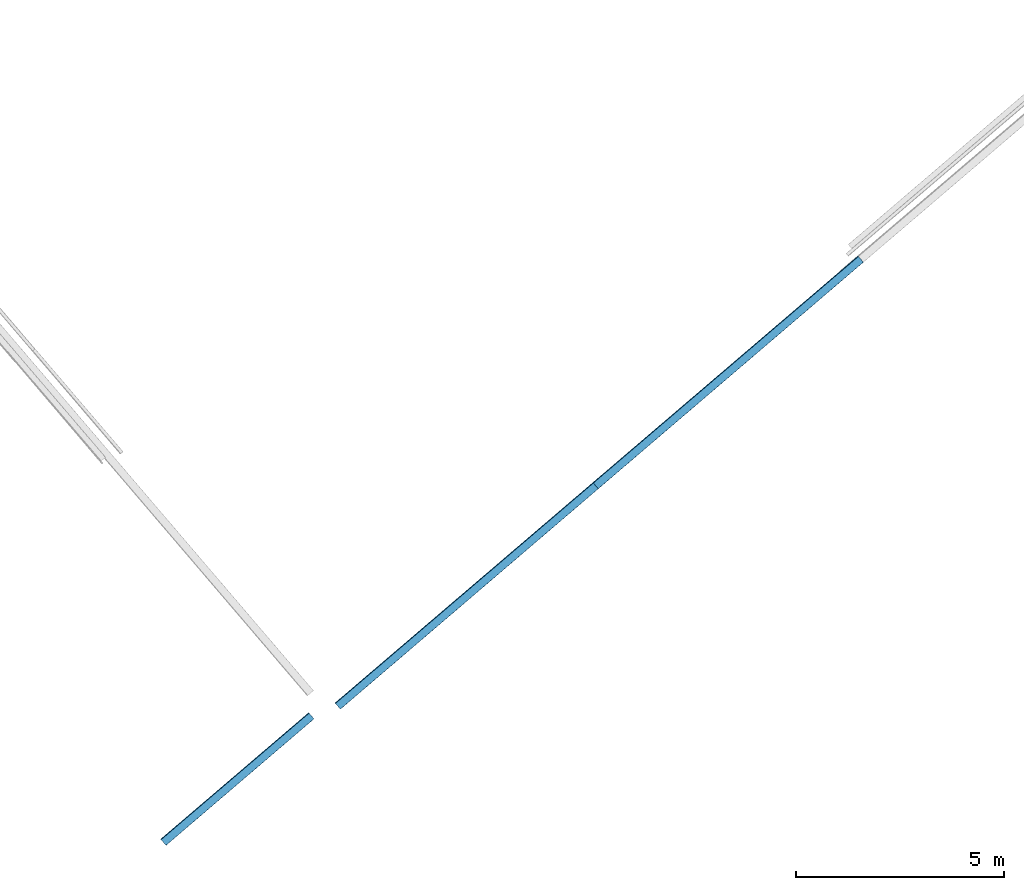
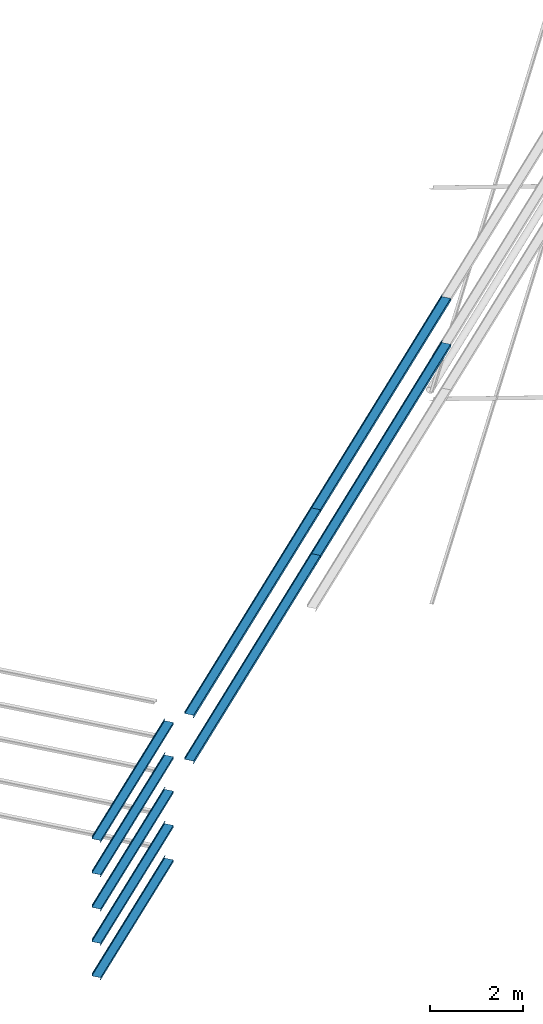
# One storey, part 2 of 6: 5 beams, 4 members.
"""IFC2X3 building model written with IfcOpenShell, lengths in millimetres."""

from ifc_helpers import new_model, entity, si_unit, converted_unit, derived_unit, direction, frame, frame_2d, origin, place, context, subcontext, project, spatial, polyline, circle_curve, parameter, trimmed, segment, composite_curve, outline, extrude, source, transform, mapped, material, type_object, type_shapes, element, save


model = new_model("IFC2X3")

# Units and contexts
model_context = context("Model", 3, precision=0.01, world=origin(), true_north=direction((6.123031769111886e-17, 1.0)))
body_context = subcontext(model_context, "Body", "Model", "MODEL_VIEW")
ifc_project = project(units=[si_unit("LENGTHUNIT", "METRE", prefix="MILLI"), si_unit("AREAUNIT", "SQUARE_METRE"), si_unit("VOLUMEUNIT", "CUBIC_METRE"), converted_unit("PLANEANGLEUNIT", "DEGREE", entity("IfcRatioMeasure", 0.017453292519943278), si_unit("PLANEANGLEUNIT", "RADIAN"), dimensions=[0, 0, 0, 0, 0, 0, 0]), si_unit("MASSUNIT", "GRAM", prefix="KILO"), derived_unit("MASSDENSITYUNIT", [(si_unit("MASSUNIT", "GRAM", prefix="KILO"), 1), (si_unit("LENGTHUNIT", "METRE"), -3)]), derived_unit("MOMENTOFINERTIAUNIT", [(si_unit("LENGTHUNIT", "METRE"), 4)]), si_unit("TIMEUNIT", "SECOND"), si_unit("FREQUENCYUNIT", "HERTZ"), si_unit("THERMODYNAMICTEMPERATUREUNIT", "DEGREE_CELSIUS"), derived_unit("THERMALTRANSMITTANCEUNIT", [(si_unit("MASSUNIT", "GRAM", prefix="KILO"), 1), (si_unit("THERMODYNAMICTEMPERATUREUNIT", "KELVIN"), -1), (si_unit("TIMEUNIT", "SECOND"), -3)]), derived_unit("VOLUMETRICFLOWRATEUNIT", [(si_unit("LENGTHUNIT", "METRE"), 3), (si_unit("TIMEUNIT", "SECOND"), -1)]), derived_unit("MASSFLOWRATEUNIT", [(si_unit("MASSUNIT", "GRAM", prefix="KILO"), 1), (si_unit("TIMEUNIT", "SECOND"), -1)]), derived_unit("ROTATIONALFREQUENCYUNIT", [(si_unit("TIMEUNIT", "SECOND"), -1)]), si_unit("ELECTRICCURRENTUNIT", "AMPERE"), si_unit("ELECTRICVOLTAGEUNIT", "VOLT"), si_unit("POWERUNIT", "WATT"), si_unit("FORCEUNIT", "NEWTON", prefix="KILO"), si_unit("ILLUMINANCEUNIT", "LUX"), si_unit("LUMINOUSFLUXUNIT", "LUMEN"), si_unit("LUMINOUSINTENSITYUNIT", "CANDELA"), derived_unit("USERDEFINED", [(si_unit("MASSUNIT", "GRAM", prefix="KILO"), -1), (si_unit("LENGTHUNIT", "METRE"), -2), (si_unit("TIMEUNIT", "SECOND"), 3), (si_unit("LUMINOUSFLUXUNIT", "LUMEN"), 1)]), derived_unit("SOUNDPOWERUNIT", [(si_unit("MASSUNIT", "GRAM", prefix="KILO"), 1), (si_unit("LENGTHUNIT", "METRE"), 2), (si_unit("TIMEUNIT", "SECOND"), -3)]), derived_unit("LINEARVELOCITYUNIT", [(si_unit("LENGTHUNIT", "METRE"), 1), (si_unit("TIMEUNIT", "SECOND"), -1)]), si_unit("PRESSUREUNIT", "PASCAL"), derived_unit("USERDEFINED", [(si_unit("LENGTHUNIT", "METRE"), -2), (si_unit("MASSUNIT", "GRAM", prefix="KILO"), 1), (si_unit("TIMEUNIT", "SECOND"), -2)]), derived_unit("LINEARFORCEUNIT", [(si_unit("MASSUNIT", "GRAM", prefix="KILO"), 1), (si_unit("LENGTHUNIT", "METRE"), 1), (si_unit("TIMEUNIT", "SECOND"), -2), (si_unit("LENGTHUNIT", "METRE"), -1)]), derived_unit("PLANARFORCEUNIT", [(si_unit("MASSUNIT", "GRAM", prefix="KILO"), 1), (si_unit("LENGTHUNIT", "METRE"), 1), (si_unit("TIMEUNIT", "SECOND"), -2), (si_unit("LENGTHUNIT", "METRE"), -2)])], contexts=[model_context])

# Site, building, storey
site_placement = place(None, frame((962.4174930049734, -6014.433753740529, 0.0), z_axis=(0.0, 0.0, 1.0), x_axis=(0.7601792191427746, 0.649713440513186, 0.0)))
site = spatial("IfcSite", under=ifc_project, at=site_placement, Name="Default", CompositionType="ELEMENT")
building_placement = place(site_placement, origin())
building = spatial("IfcBuilding", under=site, at=building_placement, CompositionType="ELEMENT")
storey_placement = place(building_placement, frame((0.0, 0.0, 8925.0)))
storey = spatial("IfcBuildingStorey", under=building, at=storey_placement, Name="TOP OF PLANT ROOM", CompositionType="ELEMENT", Elevation=8925.000000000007)

# Beams
ifc_material_1 = material(Name="Metal - Steel - 300 MPa")
beam_type = type_object("IfcBeamType", Name="ADSK_UK_Light Gauge-Zeds-Purlin:Metsec-202Z14", PredefinedType="NOTDEFINED")
beam_1_placement = place(storey_placement, frame((153783.43854266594, -25888.928082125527, -3423.5189634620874), z_axis=(-0.00031918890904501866, 0.0, 0.999999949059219), x_axis=(-0.999999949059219, 0.0, -0.00031918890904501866)))
element("IfcBeam", 1, at=beam_1_placement, inside=storey, type_object=beam_type, material=ifc_material_1, Name="ADSK_UK_Light Gauge-Zeds-Purlin:Metsec-202Z14", ObjectType="ADSK_UK_Light Gauge-Zeds-Purlin:Metsec-202Z14", context=body_context, shape_type="SweptSolid", body=[
    extrude(outline(composite_curve([segment(polyline([(-60.0, -100.80000000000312), (-0.5999999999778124, -100.80000000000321)]), True, "CONTINUOUS"), segment(trimmed(circle_curve(frame_2d((-0.599999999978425, -98.0), x_axis=(0.0, -1.0)), 2.8000000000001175), [parameter(0.0)], [parameter(90.00000000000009)], True, "PARAMETER"), True, "CONTINUOUS"), segment(polyline([(2.2000000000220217, -98.0), (2.199999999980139, 98.39999999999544)]), True, "CONTINUOUS"), segment(trimmed(circle_curve(frame_2d((3.5999999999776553, 98.40000000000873), x_axis=(-1.0, 0.0)), 1.4000000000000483), [parameter(269.9999999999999)], [parameter(0.0)], True, "PARAMETER"), False, "CONTINUOUS"), segment(polyline([(3.5999999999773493, 99.8000000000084), (58.0, 99.80000000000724)]), True, "CONTINUOUS"), segment(trimmed(circle_curve(frame_2d((58.0, 98.40000000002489), x_axis=(0.0, 1.0)), 1.3999999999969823), [parameter(269.9999999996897)], [parameter(0.0)], True, "PARAMETER"), False, "CONTINUOUS"), segment(polyline([(59.399999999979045, 98.40000000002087), (59.39999999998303, 80.20000000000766)]), True, "CONTINUOUS"), segment(polyline([(59.39999999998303, 80.20000000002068), (60.79999999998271, 80.20000000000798)]), True, "CONTINUOUS"), segment(polyline([(60.79999999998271, 80.20000000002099), (60.79999999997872, 98.40000000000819)]), True, "CONTINUOUS"), segment(trimmed(circle_curve(frame_2d((58.0, 98.40000000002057), x_axis=(1.0, 0.0)), 2.8000000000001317), [parameter(0.0)], [parameter(90.00000000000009)], True, "PARAMETER"), True, "CONTINUOUS"), segment(polyline([(58.0, 101.20000000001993), (3.599999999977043, 101.1999999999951)]), True, "CONTINUOUS"), segment(trimmed(circle_curve(frame_2d((3.5999999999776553, 98.40000000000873), x_axis=(0.0, 1.0)), 2.8000000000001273), [parameter(0.0)], [parameter(90.00000000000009)], True, "PARAMETER"), True, "CONTINUOUS"), segment(polyline([(0.7999999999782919, 98.40000000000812), (0.8000000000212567, -98.0)]), True, "CONTINUOUS"), segment(trimmed(circle_curve(frame_2d((-0.5999999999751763, -98.0), x_axis=(1.0, 0.0)), 1.3999999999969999), [parameter(269.9999999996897)], [parameter(0.0)], True, "PARAMETER"), False, "CONTINUOUS"), segment(polyline([(-0.5999999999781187, -99.39999999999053), (-60.0, -99.40000000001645)]), True, "CONTINUOUS"), segment(trimmed(circle_curve(frame_2d((-60.0, -98.0), x_axis=(0.0, -1.0)), 1.4000000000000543), [parameter(269.9999999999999)], [parameter(0.0)], True, "PARAMETER"), False, "CONTINUOUS"), segment(polyline([(-61.39999999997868, -98.0), (-61.39999999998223, -81.80000000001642)]), True, "CONTINUOUS"), segment(polyline([(-61.39999999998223, -81.80000000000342), (-62.799999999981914, -81.80000000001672)]), True, "CONTINUOUS"), segment(polyline([(-62.799999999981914, -81.80000000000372), (-62.79999999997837, -98.0)]), True, "CONTINUOUS"), segment(trimmed(circle_curve(frame_2d((-60.0, -98.0), x_axis=(-1.0, 0.0)), 2.80000000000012), [parameter(0.0)], [parameter(90.00000000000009)], True, "PARAMETER"), True, "CONTINUOUS")], self_intersect=False)), frame((-51.021663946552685, 100.79999999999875, 0.6999999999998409), z_axis=(1.0, 0.0, 0.0), x_axis=(0.0, 0.0, -1.0)), (0.0, 0.0, 1.0), 4691.0216639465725),
])
beam_2_placement = place(storey_placement, frame((153783.43731601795, -25888.928082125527, -4328.684665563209), z_axis=(0.0007941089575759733, 0.0, 0.9999996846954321), x_axis=(-0.9999996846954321, 0.0, 0.0007941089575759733)))
element("IfcBeam", 2, at=beam_2_placement, inside=storey, type_object=beam_type, material=ifc_material_1, Name="ADSK_UK_Light Gauge-Zeds-Purlin:Metsec-202Z14", ObjectType="ADSK_UK_Light Gauge-Zeds-Purlin:Metsec-202Z14", context=body_context, shape_type="SweptSolid", body=[
    extrude(outline(composite_curve([segment(polyline([(-60.0, -100.80000000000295), (-0.5999999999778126, -100.80000000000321)]), True, "CONTINUOUS"), segment(trimmed(circle_curve(frame_2d((-0.5999999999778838, -98.0), x_axis=(0.0, -1.0)), 2.799999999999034), [parameter(0.0)], [parameter(90.00000000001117)], True, "PARAMETER"), True, "CONTINUOUS"), segment(polyline([(2.2000000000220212, -98.0), (2.1999999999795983, 98.39999999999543)]), True, "CONTINUOUS"), segment(trimmed(circle_curve(frame_2d((3.5999999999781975, 98.40000000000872), x_axis=(-1.0, 0.0)), 1.4000000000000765), [parameter(269.9999999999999)], [parameter(0.0)], True, "PARAMETER"), False, "CONTINUOUS"), segment(polyline([(3.599999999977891, 99.80000000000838), (58.0, 99.80000000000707)]), True, "CONTINUOUS"), segment(trimmed(circle_curve(frame_2d((58.0, 98.40000000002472), x_axis=(0.0, 1.0)), 1.3999999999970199), [parameter(269.9999999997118)], [parameter(0.0)], True, "PARAMETER"), False, "CONTINUOUS"), segment(polyline([(59.399999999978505, 98.4000000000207), (59.399999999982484, 80.20000000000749)]), True, "CONTINUOUS"), segment(polyline([(59.399999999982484, 80.20000000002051), (60.79999999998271, 80.20000000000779)]), True, "CONTINUOUS"), segment(polyline([(60.79999999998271, 80.20000000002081), (60.79999999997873, 98.400000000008)]), True, "CONTINUOUS"), segment(trimmed(circle_curve(frame_2d((58.0, 98.4000000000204), x_axis=(1.0, 0.0)), 2.7999999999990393), [parameter(0.0)], [parameter(90.00000000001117)], True, "PARAMETER"), True, "CONTINUOUS"), segment(polyline([(58.0, 101.20000000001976), (3.599999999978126, 101.19999999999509)]), True, "CONTINUOUS"), segment(trimmed(circle_curve(frame_2d((3.5999999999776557, 98.40000000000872), x_axis=(0.0, 1.0)), 2.7999999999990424), [parameter(0.0)], [parameter(90.00000000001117)], True, "PARAMETER"), True, "CONTINUOUS"), segment(polyline([(0.7999999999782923, 98.40000000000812), (0.8000000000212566, -98.0)]), True, "CONTINUOUS"), segment(trimmed(circle_curve(frame_2d((-0.5999999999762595, -98.0), x_axis=(1.0, 0.0)), 1.3999999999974), [parameter(269.99999999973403)], [parameter(0.0)], True, "PARAMETER"), False, "CONTINUOUS"), segment(polyline([(-0.5999999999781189, -99.39999999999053), (-60.0, -99.40000000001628)]), True, "CONTINUOUS"), segment(trimmed(circle_curve(frame_2d((-60.0, -98.0), x_axis=(0.0, -1.0)), 1.400000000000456), [parameter(270.00000000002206)], [parameter(0.0)], True, "PARAMETER"), False, "CONTINUOUS"), segment(polyline([(-61.39999999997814, -98.0), (-61.39999999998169, -81.80000000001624)]), True, "CONTINUOUS"), segment(polyline([(-61.39999999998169, -81.80000000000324), (-62.799999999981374, -81.80000000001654)]), True, "CONTINUOUS"), segment(polyline([(-62.799999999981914, -81.80000000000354), (-62.79999999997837, -98.0)]), True, "CONTINUOUS"), segment(trimmed(circle_curve(frame_2d((-60.0, -98.0), x_axis=(-1.0, 0.0)), 2.799999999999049), [parameter(0.0)], [parameter(90.00000000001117)], True, "PARAMETER"), True, "CONTINUOUS")], self_intersect=False)), frame((-51.022904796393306, 100.79999999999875, 0.7000000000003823), z_axis=(1.0, 0.0, 0.0), x_axis=(0.0, 0.0, -1.0)), (0.0, 0.0, 1.0), 4691.0229047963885),
])
beam_3_placement = place(storey_placement, frame((153803.43877903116, -25888.928082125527, -2525.0), z_axis=(0.0, 0.0, 1.0), x_axis=(-1.0, 0.0, 0.0)))
element("IfcBeam", 3, at=beam_3_placement, inside=storey, type_object=beam_type, material=ifc_material_1, Name="ADSK_UK_Light Gauge-Zeds-Purlin:Metsec-202Z14", ObjectType="ADSK_UK_Light Gauge-Zeds-Purlin:Metsec-202Z14", context=body_context, shape_type="SweptSolid", body=[
    extrude(outline(composite_curve([segment(polyline([(-60.0, -100.80000000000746), (-0.5999999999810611, -100.80000000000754)]), True, "CONTINUOUS"), segment(trimmed(circle_curve(frame_2d((-0.5999999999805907, -98.0), x_axis=(0.0, -1.0)), 2.8000000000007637), [parameter(0.0)], [parameter(90.00000000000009)], True, "PARAMETER"), True, "CONTINUOUS"), segment(polyline([(2.2000000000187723, -98.0), (2.199999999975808, 98.3999999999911)]), True, "CONTINUOUS"), segment(trimmed(circle_curve(frame_2d((3.599999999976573, 98.40000000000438), x_axis=(-1.0, 0.0)), 1.3999999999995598), [parameter(269.9999999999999)], [parameter(0.0)], True, "PARAMETER"), False, "CONTINUOUS"), segment(polyline([(3.5999999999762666, 99.80000000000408), (58.0, 99.80000000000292)]), True, "CONTINUOUS"), segment(trimmed(circle_curve(frame_2d((58.0, 98.40000000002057), x_axis=(0.0, 1.0)), 1.3999999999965), [parameter(269.99999999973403)], [parameter(0.0)], True, "PARAMETER"), False, "CONTINUOUS"), segment(polyline([(59.39999999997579, 98.40000000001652), (59.39999999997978, 80.20000000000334)]), True, "CONTINUOUS"), segment(polyline([(59.39999999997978, 80.20000000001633), (60.79999999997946, 80.20000000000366)]), True, "CONTINUOUS"), segment(polyline([(60.79999999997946, 80.20000000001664), (60.799999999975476, 98.40000000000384)]), True, "CONTINUOUS"), segment(trimmed(circle_curve(frame_2d((58.0, 98.40000000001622), x_axis=(1.0, 0.0)), 2.8000000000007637), [parameter(0.0)], [parameter(90.00000000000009)], True, "PARAMETER"), True, "CONTINUOUS"), segment(polyline([(58.0, 101.2000000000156), (3.59999999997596, 101.19999999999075)]), True, "CONTINUOUS"), segment(trimmed(circle_curve(frame_2d((3.599999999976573, 98.40000000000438), x_axis=(0.0, 1.0)), 2.800000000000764), [parameter(0.0)], [parameter(90.00000000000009)], True, "PARAMETER"), True, "CONTINUOUS"), segment(polyline([(0.7999999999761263, 98.40000000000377), (0.800000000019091, -98.0)]), True, "CONTINUOUS"), segment(trimmed(circle_curve(frame_2d((-0.5999999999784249, -98.0), x_axis=(1.0, 0.0)), 1.399999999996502), [parameter(269.99999999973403)], [parameter(0.0)], True, "PARAMETER"), False, "CONTINUOUS"), segment(polyline([(-0.5999999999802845, -99.39999999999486), (-60.0, -99.40000000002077)]), True, "CONTINUOUS"), segment(trimmed(circle_curve(frame_2d((-60.0, -98.0), x_axis=(0.0, -1.0)), 1.3999999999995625), [parameter(269.9999999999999)], [parameter(0.0)], True, "PARAMETER"), False, "CONTINUOUS"), segment(polyline([(-61.39999999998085, -98.0), (-61.399999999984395, -81.80000000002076)]), True, "CONTINUOUS"), segment(polyline([(-61.399999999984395, -81.80000000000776), (-62.79999999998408, -81.80000000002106)]), True, "CONTINUOUS"), segment(polyline([(-62.79999999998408, -81.80000000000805), (-62.799999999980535, -98.0)]), True, "CONTINUOUS"), segment(trimmed(circle_curve(frame_2d((-60.0, -98.0), x_axis=(-1.0, 0.0)), 2.8000000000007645), [parameter(0.0)], [parameter(90.00000000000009)], True, "PARAMETER"), True, "CONTINUOUS")], self_intersect=False)), frame((-32.0, 100.79999999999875, 0.6999999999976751), z_axis=(1.0, 0.0, 0.0), x_axis=(0.0, 0.0, -1.0)), (0.0, 0.0, 1.0), 4692.000000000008),
])
beam_4_placement = place(storey_placement, frame((153823.43877903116, -25888.928082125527, -1625.0), z_axis=(0.0, 0.0, 1.0), x_axis=(-1.0, 0.0, 0.0)))
element("IfcBeam", 4, at=beam_4_placement, inside=storey, type_object=beam_type, material=ifc_material_1, Name="ADSK_UK_Light Gauge-Zeds-Purlin:Metsec-202Z14", ObjectType="ADSK_UK_Light Gauge-Zeds-Purlin:Metsec-202Z14", context=body_context, shape_type="SweptSolid", body=[
    extrude(outline(composite_curve([segment(polyline([(-60.0, -100.80000000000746), (-0.5999999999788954, -100.80000000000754)]), True, "CONTINUOUS"), segment(trimmed(circle_curve(frame_2d((-0.599999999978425, -98.0), x_axis=(0.0, -1.0)), 2.8000000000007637), [parameter(0.0)], [parameter(90.00000000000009)], True, "PARAMETER"), True, "CONTINUOUS"), segment(polyline([(2.200000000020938, -98.0), (2.199999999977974, 98.3999999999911)]), True, "CONTINUOUS"), segment(trimmed(circle_curve(frame_2d((3.5999999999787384, 98.40000000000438), x_axis=(-1.0, 0.0)), 1.3999999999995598), [parameter(269.9999999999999)], [parameter(0.0)], True, "PARAMETER"), False, "CONTINUOUS"), segment(polyline([(3.599999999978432, 99.80000000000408), (58.0, 99.80000000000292)]), True, "CONTINUOUS"), segment(trimmed(circle_curve(frame_2d((58.0, 98.40000000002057), x_axis=(0.0, 1.0)), 1.3999999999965), [parameter(269.99999999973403)], [parameter(0.0)], True, "PARAMETER"), False, "CONTINUOUS"), segment(polyline([(59.39999999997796, 98.40000000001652), (59.399999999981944, 80.20000000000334)]), True, "CONTINUOUS"), segment(polyline([(59.399999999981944, 80.20000000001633), (60.79999999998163, 80.20000000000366)]), True, "CONTINUOUS"), segment(polyline([(60.79999999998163, 80.20000000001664), (60.79999999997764, 98.40000000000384)]), True, "CONTINUOUS"), segment(trimmed(circle_curve(frame_2d((58.0, 98.40000000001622), x_axis=(1.0, 0.0)), 2.8000000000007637), [parameter(0.0)], [parameter(90.00000000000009)], True, "PARAMETER"), True, "CONTINUOUS"), segment(polyline([(58.0, 101.2000000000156), (3.5999999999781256, 101.19999999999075)]), True, "CONTINUOUS"), segment(trimmed(circle_curve(frame_2d((3.5999999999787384, 98.40000000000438), x_axis=(0.0, 1.0)), 2.800000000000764), [parameter(0.0)], [parameter(90.00000000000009)], True, "PARAMETER"), True, "CONTINUOUS"), segment(polyline([(0.799999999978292, 98.40000000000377), (0.8000000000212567, -98.0)]), True, "CONTINUOUS"), segment(trimmed(circle_curve(frame_2d((-0.5999999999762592, -98.0), x_axis=(1.0, 0.0)), 1.399999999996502), [parameter(269.99999999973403)], [parameter(0.0)], True, "PARAMETER"), False, "CONTINUOUS"), segment(polyline([(-0.5999999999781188, -99.39999999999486), (-60.0, -99.40000000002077)]), True, "CONTINUOUS"), segment(trimmed(circle_curve(frame_2d((-60.0, -98.0), x_axis=(0.0, -1.0)), 1.3999999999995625), [parameter(269.9999999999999)], [parameter(0.0)], True, "PARAMETER"), False, "CONTINUOUS"), segment(polyline([(-61.39999999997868, -98.0), (-61.39999999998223, -81.80000000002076)]), True, "CONTINUOUS"), segment(polyline([(-61.39999999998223, -81.80000000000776), (-62.799999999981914, -81.80000000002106)]), True, "CONTINUOUS"), segment(polyline([(-62.799999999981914, -81.80000000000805), (-62.79999999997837, -98.0)]), True, "CONTINUOUS"), segment(trimmed(circle_curve(frame_2d((-60.0, -98.0), x_axis=(-1.0, 0.0)), 2.8000000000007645), [parameter(0.0)], [parameter(90.00000000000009)], True, "PARAMETER"), True, "CONTINUOUS")], self_intersect=False)), frame((-12.0, 100.79999999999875, 0.6999999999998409), z_axis=(1.0, 0.0, 0.0), x_axis=(0.0, 0.0, -1.0)), (0.0, 0.0, 1.0), 4692.000000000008),
])
beam_5_placement = place(storey_placement, frame((153663.43877903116, -25888.928082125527, -725.0), z_axis=(0.0, 0.0, 1.0), x_axis=(-1.0, 0.0, 0.0)))
element("IfcBeam", 5, at=beam_5_placement, inside=storey, type_object=beam_type, material=ifc_material_1, Name="ADSK_UK_Light Gauge-Zeds-Purlin:Metsec-202Z14", ObjectType="ADSK_UK_Light Gauge-Zeds-Purlin:Metsec-202Z14", context=body_context, shape_type="SweptSolid", body=[
    extrude(outline(composite_curve([segment(polyline([(-60.0, -100.80000000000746), (-0.5999999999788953, -100.80000000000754)]), True, "CONTINUOUS"), segment(trimmed(circle_curve(frame_2d((-0.5999999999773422, -98.0), x_axis=(0.0, -1.0)), 2.8000000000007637), [parameter(0.0)], [parameter(90.00000000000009)], True, "PARAMETER"), True, "CONTINUOUS"), segment(polyline([(2.2000000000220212, -98.0), (2.199999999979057, 98.3999999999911)]), True, "CONTINUOUS"), segment(trimmed(circle_curve(frame_2d((3.5999999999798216, 98.40000000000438), x_axis=(-1.0, 0.0)), 1.3999999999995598), [parameter(269.9999999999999)], [parameter(0.0)], True, "PARAMETER"), False, "CONTINUOUS"), segment(polyline([(3.599999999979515, 99.80000000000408), (58.0, 99.80000000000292)]), True, "CONTINUOUS"), segment(trimmed(circle_curve(frame_2d((58.0, 98.40000000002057), x_axis=(0.0, 1.0)), 1.3999999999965), [parameter(269.99999999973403)], [parameter(0.0)], True, "PARAMETER"), False, "CONTINUOUS"), segment(polyline([(59.399999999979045, 98.40000000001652), (59.39999999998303, 80.20000000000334)]), True, "CONTINUOUS"), segment(polyline([(59.39999999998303, 80.20000000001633), (60.79999999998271, 80.20000000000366)]), True, "CONTINUOUS"), segment(polyline([(60.79999999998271, 80.20000000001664), (60.79999999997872, 98.40000000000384)]), True, "CONTINUOUS"), segment(trimmed(circle_curve(frame_2d((58.0, 98.40000000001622), x_axis=(1.0, 0.0)), 2.8000000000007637), [parameter(0.0)], [parameter(90.00000000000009)], True, "PARAMETER"), True, "CONTINUOUS"), segment(polyline([(58.0, 101.2000000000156), (3.5999999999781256, 101.19999999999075)]), True, "CONTINUOUS"), segment(trimmed(circle_curve(frame_2d((3.5999999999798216, 98.40000000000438), x_axis=(0.0, 1.0)), 2.800000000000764), [parameter(0.0)], [parameter(90.00000000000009)], True, "PARAMETER"), True, "CONTINUOUS"), segment(polyline([(0.7999999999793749, 98.40000000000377), (0.8000000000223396, -98.0)]), True, "CONTINUOUS"), segment(trimmed(circle_curve(frame_2d((-0.5999999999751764, -98.0), x_axis=(1.0, 0.0)), 1.399999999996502), [parameter(269.99999999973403)], [parameter(0.0)], True, "PARAMETER"), False, "CONTINUOUS"), segment(polyline([(-0.599999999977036, -99.39999999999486), (-60.0, -99.40000000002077)]), True, "CONTINUOUS"), segment(trimmed(circle_curve(frame_2d((-60.0, -98.0), x_axis=(0.0, -1.0)), 1.3999999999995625), [parameter(269.9999999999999)], [parameter(0.0)], True, "PARAMETER"), False, "CONTINUOUS"), segment(polyline([(-61.3999999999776, -98.0), (-61.39999999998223, -81.80000000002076)]), True, "CONTINUOUS"), segment(polyline([(-61.39999999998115, -81.80000000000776), (-62.79999999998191, -81.80000000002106)]), True, "CONTINUOUS"), segment(polyline([(-62.79999999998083, -81.80000000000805), (-62.79999999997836, -98.0)]), True, "CONTINUOUS"), segment(trimmed(circle_curve(frame_2d((-60.0, -98.0), x_axis=(-1.0, 0.0)), 2.8000000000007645), [parameter(0.0)], [parameter(90.00000000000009)], True, "PARAMETER"), True, "CONTINUOUS")], self_intersect=False)), frame((-171.02142567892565, 100.79999999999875, 0.7000000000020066), z_axis=(1.0, 0.0, 0.0), x_axis=(0.0, 0.0, -1.0)), (0.0, 0.0, 1.0), 4691.021425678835),
])

# Members
ifc_material_2 = material(Name="Metal - Steel - 345 MPa")
member_type_1 = type_object("IfcMemberType", Name="ADSK_AU_Light Gauge-Zeds:Z20012", PredefinedType="BRACE", material=ifc_material_2)
shared_shape_1 = source(origin(), body_context, "Body", "SweptSolid", [
    extrude(outline(composite_curve([segment(polyline([(-98.30000000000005, -66.44000000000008), (-82.0, -66.44000000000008)]), True, "CONTINUOUS"), segment(polyline([(-82.0, -66.44000000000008), (-82.0, -65.24000000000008)]), True, "CONTINUOUS"), segment(polyline([(-82.0, -65.24000000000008), (-98.29999999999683, -65.24000000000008)]), True, "CONTINUOUS"), segment(trimmed(circle_curve(frame_2d((-98.30000000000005, -63.24000000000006), x_axis=(0.0, -1.0)), 2.0000000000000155), [parameter(270.00000000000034)], [parameter(0.0)], True, "PARAMETER"), False, "CONTINUOUS"), segment(polyline([(-100.3, -63.24000000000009), (-100.29999999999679, -6.440000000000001)]), True, "CONTINUOUS"), segment(trimmed(circle_curve(frame_2d((-98.29999999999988, -6.439999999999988), x_axis=(-1.0, 0.0)), 1.9999999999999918), [parameter(269.9999999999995)], [parameter(0.0)], True, "PARAMETER"), False, "CONTINUOUS"), segment(polyline([(-98.29999999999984, -4.439999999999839), (98.30000000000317, -4.439999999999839)]), True, "CONTINUOUS"), segment(trimmed(circle_curve(frame_2d((98.29999999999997, -1.239999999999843), x_axis=(0.0, -1.0)), 3.199999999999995), [parameter(0.0)], [parameter(90.00000000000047)], True, "PARAMETER"), True, "CONTINUOUS"), segment(polyline([(101.49999999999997, -1.2399999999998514), (101.50000000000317, 68.3599999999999)]), True, "CONTINUOUS"), segment(trimmed(circle_curve(frame_2d((98.29999999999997, 68.35999999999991), x_axis=(1.0, 0.0)), 3.2000000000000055), [parameter(0.0)], [parameter(90.00000000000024)], True, "PARAMETER"), True, "CONTINUOUS"), segment(polyline([(98.3, 71.5599999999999), (82.0, 71.5599999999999)]), True, "CONTINUOUS"), segment(polyline([(82.0, 71.5599999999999), (82.0, 70.3599999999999)]), True, "CONTINUOUS"), segment(polyline([(82.0, 70.3599999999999), (98.30000000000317, 70.3599999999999)]), True, "CONTINUOUS"), segment(trimmed(circle_curve(frame_2d((98.29999999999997, 68.35999999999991), x_axis=(0.0, 1.0)), 1.9999999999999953), [parameter(269.99999999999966)], [parameter(0.0)], True, "PARAMETER"), False, "CONTINUOUS"), segment(polyline([(100.29999999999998, 68.3599999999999), (100.30000000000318, -1.2399999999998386)]), True, "CONTINUOUS"), segment(trimmed(circle_curve(frame_2d((98.29999999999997, -1.2399999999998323), x_axis=(1.0, 0.0)), 2.000000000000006), [parameter(270.00000000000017)], [parameter(0.0)], True, "PARAMETER"), False, "CONTINUOUS"), segment(polyline([(98.3, -3.2399999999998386), (-98.29999999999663, -3.2399999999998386)]), True, "CONTINUOUS"), segment(trimmed(circle_curve(frame_2d((-98.29999999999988, -6.439999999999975), x_axis=(0.0, 1.0)), 3.200000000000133), [parameter(0.0)], [parameter(90.00000000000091)], True, "PARAMETER"), True, "CONTINUOUS"), segment(polyline([(-101.5, -6.440000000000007), (-101.49999999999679, -63.24000000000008)]), True, "CONTINUOUS"), segment(trimmed(circle_curve(frame_2d((-98.30000000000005, -63.24000000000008), x_axis=(-1.0, 0.0)), 3.200000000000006), [parameter(0.0)], [parameter(90.00000000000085)], True, "PARAMETER"), True, "CONTINUOUS")], self_intersect=False)), frame((-4584.499999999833, 4.439999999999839, 0.0), z_axis=(1.0, 0.0, 0.0), x_axis=(0.0, 0.0, -1.0)), (0.0, 0.0, 1.0), 8999.999999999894),
])
type_shapes(member_type_1, [shared_shape_1])
for number, where, z_axis, x_axis, name in (
    (6, (166623.46020470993, -26224.928082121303, -902.6000000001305), (0.0, 1.0, 0.0), (1.0, 0.0, 0.0), "ADSK_AU_Light Gauge-Zeds:Z20012"),
    (7, (166623.46020470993, -26224.928082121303, -2102.6000000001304), (0.0, 1.0, 0.0), (1.0, 0.0, 0.0), "ADSK_AU_Light Gauge-Zeds:Z20012"),
):
    element("IfcMember", number, at=place(storey_placement, frame(where, z_axis=z_axis, x_axis=x_axis)), inside=storey, type_object=member_type_1, material=ifc_material_2, Name=name, ObjectType="ADSK_AU_Light Gauge-Zeds:Z20012", context=body_context, shape_type="MappedRepresentation", body=[
        mapped(shared_shape_1, transform((0.0, 0.0, 0.0), scale=1.0)),
    ])
member_type_2 = type_object("IfcMemberType", Name="ADSK_AU_Light Gauge-Zeds:Z20012", PredefinedType="BRACE", material=ifc_material_2)
shared_shape_2 = source(origin(), body_context, "Body", "SweptSolid", [
    extrude(outline(composite_curve([segment(polyline([(-98.30000000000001, -66.44000000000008), (-82.0, -66.44000000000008)]), True, "CONTINUOUS"), segment(polyline([(-82.0, -66.44000000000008), (-82.0, -65.24000000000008)]), True, "CONTINUOUS"), segment(polyline([(-82.0, -65.24000000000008), (-98.2999999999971, -65.24000000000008)]), True, "CONTINUOUS"), segment(trimmed(circle_curve(frame_2d((-98.30000000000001, -63.24000000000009), x_axis=(0.0, -1.0)), 1.999999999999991), [parameter(269.99999999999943)], [parameter(0.0)], True, "PARAMETER"), False, "CONTINUOUS"), segment(polyline([(-100.3, -63.24000000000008), (-100.29999999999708, -6.439999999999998)]), True, "CONTINUOUS"), segment(trimmed(circle_curve(frame_2d((-98.29999999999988, -6.439999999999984), x_axis=(-1.0, 0.0)), 1.9999999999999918), [parameter(269.9999999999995)], [parameter(0.0)], True, "PARAMETER"), False, "CONTINUOUS"), segment(polyline([(-98.29999999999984, -4.439999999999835), (98.3000000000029, -4.439999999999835)]), True, "CONTINUOUS"), segment(trimmed(circle_curve(frame_2d((98.29999999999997, -1.2399999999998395), x_axis=(0.0, -1.0)), 3.199999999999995), [parameter(0.0)], [parameter(90.00000000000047)], True, "PARAMETER"), True, "CONTINUOUS"), segment(polyline([(101.49999999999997, -1.239999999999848), (101.5000000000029, 68.3599999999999)]), True, "CONTINUOUS"), segment(trimmed(circle_curve(frame_2d((98.29999999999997, 68.35999999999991), x_axis=(1.0, 0.0)), 3.2000000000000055), [parameter(0.0)], [parameter(90.00000000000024)], True, "PARAMETER"), True, "CONTINUOUS"), segment(polyline([(98.3, 71.5599999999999), (82.0, 71.5599999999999)]), True, "CONTINUOUS"), segment(polyline([(82.0, 71.5599999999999), (82.0, 70.3599999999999)]), True, "CONTINUOUS"), segment(polyline([(82.0, 70.3599999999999), (98.3000000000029, 70.3599999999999)]), True, "CONTINUOUS"), segment(trimmed(circle_curve(frame_2d((98.29999999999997, 68.35999999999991), x_axis=(0.0, 1.0)), 1.9999999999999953), [parameter(269.99999999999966)], [parameter(0.0)], True, "PARAMETER"), False, "CONTINUOUS"), segment(polyline([(100.29999999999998, 68.3599999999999), (100.30000000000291, -1.239999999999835)]), True, "CONTINUOUS"), segment(trimmed(circle_curve(frame_2d((98.29999999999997, -1.2399999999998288), x_axis=(1.0, 0.0)), 2.000000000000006), [parameter(270.00000000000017)], [parameter(0.0)], True, "PARAMETER"), False, "CONTINUOUS"), segment(polyline([(98.3, -3.239999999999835), (-98.2999999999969, -3.239999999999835)]), True, "CONTINUOUS"), segment(trimmed(circle_curve(frame_2d((-98.29999999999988, -6.439999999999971), x_axis=(0.0, 1.0)), 3.200000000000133), [parameter(0.0)], [parameter(90.00000000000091)], True, "PARAMETER"), True, "CONTINUOUS"), segment(polyline([(-101.5, -6.440000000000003), (-101.49999999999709, -63.24000000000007)]), True, "CONTINUOUS"), segment(trimmed(circle_curve(frame_2d((-98.30000000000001, -63.240000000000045), x_axis=(-1.0, 0.0)), 3.2000000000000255), [parameter(0.0)], [parameter(89.99999999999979)], True, "PARAMETER"), True, "CONTINUOUS")], self_intersect=False)), frame((-3756.6999999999, 4.439999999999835, 0.0), z_axis=(1.0, 0.0, 0.0), x_axis=(0.0, 0.0, -1.0)), (0.0, 0.0, 1.0), 8172.199999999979),
])
type_shapes(member_type_2, [shared_shape_2])
for number, where, z_axis, x_axis, name in (
    (8, (158223.4602047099, -26224.92808212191, -2101.400000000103), (0.0, 1.0, 0.0), (1.0, 0.0, 0.0), "ADSK_AU_Light Gauge-Zeds:Z20012"),
    (9, (158223.4602047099, -26224.92808212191, -901.4000000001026), (0.0, 1.0, 0.0), (1.0, 0.0, 0.0), "ADSK_AU_Light Gauge-Zeds:Z20012"),
):
    element("IfcMember", number, at=place(storey_placement, frame(where, z_axis=z_axis, x_axis=x_axis)), inside=storey, type_object=member_type_2, material=ifc_material_2, Name=name, ObjectType="ADSK_AU_Light Gauge-Zeds:Z20012", context=body_context, shape_type="MappedRepresentation", body=[
        mapped(shared_shape_2, transform((0.0, 0.0, 0.0), scale=1.0)),
    ])

save(model, "model.ifc")
